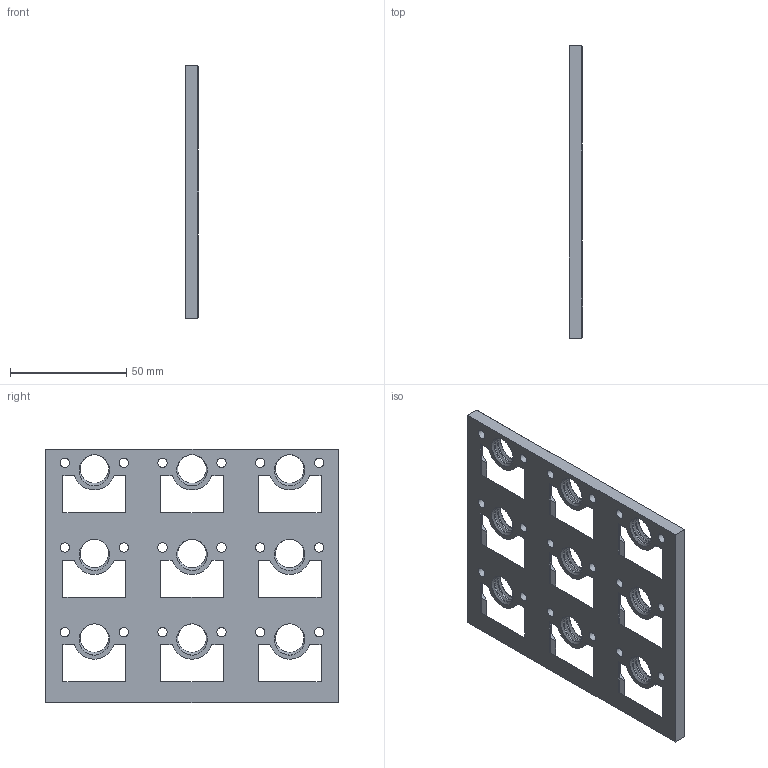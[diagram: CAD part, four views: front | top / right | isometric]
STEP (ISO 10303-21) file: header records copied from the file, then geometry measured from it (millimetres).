
FILE_DESCRIPTION(/* description */ ('','CAx-IF Rec.Pracs.---Representation and Presentation of Product Manufacturing Information (PMI)---4.0---2014-10-13'),/* implementation_level */ '2;1');
FILE_NAME(/* name */ 'Goews Grid 36H 3x3.step',/* time_stamp */ '2025-01-03T10:26:38-05:00',/* author */ (''),/* organization */ (''),/* preprocessor_version */ 'ST-DEVELOPER v20',/* originating_system */ 'Autodesk Translation Framework v13.20.0.188',/* authorisation */ '');
FILE_SCHEMA (('AP242_MANAGED_MODEL_BASED_3D_ENGINEERING_MIM_LF { 1 0 10303 442 1 1 4 }'));
Length unit declared in the file: millimetre
Products named in the file (1): Goews Grid 36H 3x3
Bounding box: 6 x 126 x 109.12 mm (x, y, z)
Volume: 42219.3 mm3; surface area: 30905.9 mm2
Topology: 1 solids, 1 shells, 392 faces, 1058 edges, 668 vertices
Faces by surface type: plane 230, cylinder 117, cone 27, bspline 18
Full cylindrical faces by diameter (mm): 4 x18, 8 x18, 12.322 x18, 14.55 x18
Entity records: 22755 total; most frequent: CARTESIAN_POINT 13135, ORIENTED_EDGE 2116, DIRECTION 1745, EDGE_CURVE 1058, LINE 707, VECTOR 707, VERTEX_POINT 668, AXIS2_PLACEMENT_3D 519
